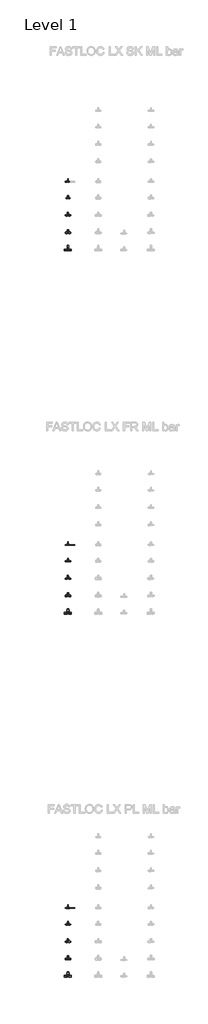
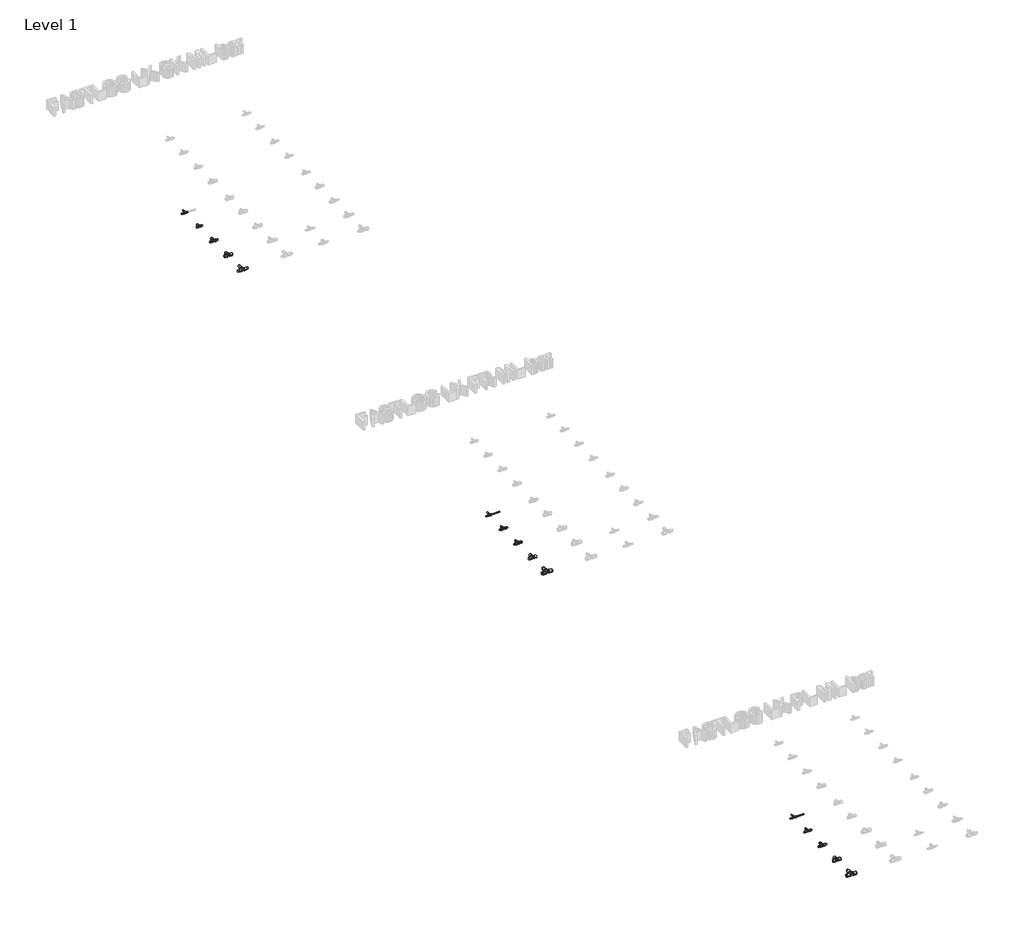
# One storey, part 1 of 78: 41 pipe segments, 15 pipe fittings.
"""IFC4 building model written with IfcOpenShell, lengths in millimetres."""

from ifc_helpers import new_model, si_unit, point, frame, frame_2d, origin, place, context, project, spatial, circle_curve, trimmed, segment, composite_curve, outline, extrude, transform, mapped, element, save
from components import pipe_fitting_d1609a9c, pipe_fitting_bded02bd, pipe_fitting_da5243fc, pipe_fitting_29102c59, pipe_fitting_564e9d2e

model = new_model("IFC4")

# Units and contexts
model_context = context("Model", 3, world=origin())
ifc_project = project(units=[si_unit("LENGTHUNIT", "METRE", prefix="MILLI")], contexts=[model_context])

# Site, building, storey
site = spatial("IfcSite", under=ifc_project)
building = spatial("IfcBuilding", under=site)
storey = spatial("IfcBuildingStorey", under=building, Name="Level 1", Elevation=0.0)

# Pipe fittings
placement = place(None, origin())
pipe_fitting_shape = pipe_fitting_d1609a9c(model_context)
element("IfcPipeFitting", 1, ObjectType="FASTLOC_T-piece_LX : FSL T-Piece LX FR", at=placement, inside=storey, context=model_context, shape_type="MappedRepresentation", body=[
    mapped(pipe_fitting_shape, transform((-273.2501928, -28780.2405791, 0.0), x_axis=(1.0, 0.0, 0.0), y_axis=(0.0, 1.0, 0.0), z_axis=(0.0, 0.0, 1.0))),
])
element("IfcPipeFitting", 2, ObjectType="FASTLOC_T-piece_LX : FSL T-Piece LX PL", at=placement, inside=storey, context=model_context, shape_type="MappedRepresentation", body=[
    mapped(pipe_fitting_shape, transform((-273.2501928, -37180.2405791, 0.0), x_axis=(1.0, 0.0, 0.0), y_axis=(0.0, 1.0, 0.0), z_axis=(0.0, 0.0, 1.0))),
])
element("IfcPipeFitting", 3, ObjectType="FASTLOC_T-piece_LX : FSL T-Piece LX SK", at=placement, inside=storey, context=model_context, shape_type="MappedRepresentation", body=[
    mapped(pipe_fitting_shape, transform((-273.2501928, -20380.2405791, 0.0), x_axis=(1.0, 0.0, 0.0), y_axis=(0.0, 1.0, 0.0), z_axis=(0.0, 0.0, 1.0))),
])
pipe_fitting_2_shape = pipe_fitting_bded02bd(model_context)
element("IfcPipeFitting", 4, ObjectType="FASTLOC_T-piece_LX : FSL T-Piece LX SK", at=placement, inside=storey, context=model_context, shape_type="MappedRepresentation", body=[
    mapped(pipe_fitting_2_shape, transform((-273.2501928, -20760.2405791, 0.0), x_axis=(1.0, 0.0, 0.0), y_axis=(0.0, 1.0, 0.0), z_axis=(0.0, 0.0, 1.0))),
])
pipe_fitting_3_shape = pipe_fitting_da5243fc(model_context)
element("IfcPipeFitting", 5, ObjectType="FASTLOC_T-piece_LX : FSL T-Piece LX SK", at=placement, inside=storey, context=model_context, shape_type="MappedRepresentation", body=[
    mapped(pipe_fitting_3_shape, transform((-273.2501928, -21160.2405791, 0.0), x_axis=(1.0, 0.0, 0.0), y_axis=(0.0, 1.0, 0.0), z_axis=(0.0, 0.0, 1.0))),
])
pipe_fitting_4_shape = pipe_fitting_29102c59(model_context)
element("IfcPipeFitting", 6, ObjectType="FASTLOC_T-piece_LX : FSL T-Piece LX SK", at=placement, inside=storey, context=model_context, shape_type="MappedRepresentation", body=[
    mapped(pipe_fitting_4_shape, transform((-273.2501928, -21560.2405791, 0.0), x_axis=(1.0, 0.0, 0.0), y_axis=(0.0, 1.0, 0.0), z_axis=(0.0, 0.0, 1.0))),
])
element("IfcPipeFitting", 7, ObjectType="FASTLOC_T-piece_LX : FSL T-Piece LX SK", at=placement, inside=storey, context=model_context, shape_type="MappedRepresentation", body=[
    mapped(pipe_fitting_4_shape, transform((-273.2501928, -21960.2405791, 0.0), x_axis=(1.0, 0.0, 0.0), y_axis=(0.0, 1.0, 0.0), z_axis=(0.0, 0.0, 1.0))),
])
element("IfcPipeFitting", 8, ObjectType="FASTLOC_T-piece_LX : FSL T-Piece LX FR", at=placement, inside=storey, context=model_context, shape_type="MappedRepresentation", body=[
    mapped(pipe_fitting_2_shape, transform((-273.2501928, -29160.2405791, 0.0), x_axis=(1.0, 0.0, 0.0), y_axis=(0.0, 1.0, 0.0), z_axis=(0.0, 0.0, 1.0))),
])
element("IfcPipeFitting", 9, ObjectType="FASTLOC_T-piece_LX : FSL T-Piece LX FR", at=placement, inside=storey, context=model_context, shape_type="MappedRepresentation", body=[
    mapped(pipe_fitting_3_shape, transform((-273.2501928, -29560.2405791, 0.0), x_axis=(1.0, 0.0, 0.0), y_axis=(0.0, 1.0, 0.0), z_axis=(0.0, 0.0, 1.0))),
])
element("IfcPipeFitting", 10, ObjectType="FASTLOC_T-piece_LX : FSL T-Piece LX FR", at=placement, inside=storey, context=model_context, shape_type="MappedRepresentation", body=[
    mapped(pipe_fitting_4_shape, transform((-273.2501928, -29960.2405791, 0.0), x_axis=(1.0, 0.0, 0.0), y_axis=(0.0, 1.0, 0.0), z_axis=(0.0, 0.0, 1.0))),
])
pipe_fitting_5_shape = pipe_fitting_564e9d2e(model_context)
element("IfcPipeFitting", 11, ObjectType="FASTLOC_T-piece_LX : FSL T-Piece LX FR", at=placement, inside=storey, context=model_context, shape_type="MappedRepresentation", body=[
    mapped(pipe_fitting_5_shape, transform((-273.2501928, -30360.2405791, 0.0), x_axis=(1.0, 0.0, 0.0), y_axis=(0.0, 1.0, 0.0), z_axis=(0.0, 0.0, 1.0))),
])
element("IfcPipeFitting", 12, ObjectType="FASTLOC_T-piece_LX : FSL T-Piece LX PL", at=placement, inside=storey, context=model_context, shape_type="MappedRepresentation", body=[
    mapped(pipe_fitting_2_shape, transform((-273.2501928, -37560.2405791, 0.0), x_axis=(1.0, 0.0, 0.0), y_axis=(0.0, 1.0, 0.0), z_axis=(0.0, 0.0, 1.0))),
])
element("IfcPipeFitting", 13, ObjectType="FASTLOC_T-piece_LX : FSL T-Piece LX PL", at=placement, inside=storey, context=model_context, shape_type="MappedRepresentation", body=[
    mapped(pipe_fitting_3_shape, transform((-273.2501928, -37960.2405791, 0.0), x_axis=(1.0, 0.0, 0.0), y_axis=(0.0, 1.0, 0.0), z_axis=(0.0, 0.0, 1.0))),
])
element("IfcPipeFitting", 14, ObjectType="FASTLOC_T-piece_LX : FSL T-Piece LX PL", at=placement, inside=storey, context=model_context, shape_type="MappedRepresentation", body=[
    mapped(pipe_fitting_4_shape, transform((-273.2501928, -38360.2405791, 0.0), x_axis=(1.0, 0.0, 0.0), y_axis=(0.0, 1.0, 0.0), z_axis=(0.0, 0.0, 1.0))),
])
element("IfcPipeFitting", 15, ObjectType="FASTLOC_T-piece_LX : FSL T-Piece LX PL", at=placement, inside=storey, context=model_context, shape_type="MappedRepresentation", body=[
    mapped(pipe_fitting_5_shape, transform((-273.2501928, -38760.2405791, 0.0), x_axis=(1.0, 0.0, 0.0), y_axis=(0.0, 1.0, 0.0), z_axis=(0.0, 0.0, 1.0))),
])

# Pipe segments
element("IfcPipeSegment", 16, ObjectType="FASTLOC LX ML SK bar", at=placement, inside=storey, context=model_context, shape_type="SweptSolid", body=[
    extrude(outline(composite_curve([segment(trimmed(circle_curve(frame_2d((-20380.2405791, 0.0)), 8.0), [point((-20372.2405791, 0.0))], [point((-20380.2405791, -8.0))], False, "CARTESIAN"), True, "CONTINUOUS"), segment(trimmed(circle_curve(frame_2d((-20380.2405791, 0.0)), 8.0), [point((-20380.2405791, -8.0))], [point((-20388.2405791, 0.0))], False, "CARTESIAN"), True, "CONTINUOUS"), segment(trimmed(circle_curve(frame_2d((-20380.2405791, 0.0)), 8.0), [point((-20388.2405791, 0.0))], [point((-20380.2405791, 8.0))], False, "CARTESIAN"), True, "CONTINUOUS"), segment(trimmed(circle_curve(frame_2d((-20380.2405791, 0.0)), 8.0), [point((-20380.2405791, 8.0))], [point((-20372.2405791, 0.0))], False, "CARTESIAN"), True, "CONTINUOUS")], self_intersect=False)), frame((-335.2501928, 0.0, 0.0), z_axis=(1.0, 0.0, 0.0), x_axis=(0.0, 1.0, 0.0)), (0.0, 0.0, 1.0), 47.0),
])
element("IfcPipeSegment", 17, ObjectType="FASTLOC LX ML SK bar", at=placement, inside=storey, context=model_context, shape_type="SweptSolid", body=[
    extrude(outline(composite_curve([segment(trimmed(circle_curve(frame_2d((0.0, -273.2501928)), 8.0), [point((0.0, -265.2501928))], [point((8.0, -273.2501928))], False, "CARTESIAN"), True, "CONTINUOUS"), segment(trimmed(circle_curve(frame_2d((0.0, -273.2501928)), 8.0), [point((8.0, -273.2501928))], [point((0.0, -281.2501928))], False, "CARTESIAN"), True, "CONTINUOUS"), segment(trimmed(circle_curve(frame_2d((0.0, -273.2501928)), 8.0), [point((0.0, -281.2501928))], [point((-8.0, -273.2501928))], False, "CARTESIAN"), True, "CONTINUOUS"), segment(trimmed(circle_curve(frame_2d((0.0, -273.2501928)), 8.0), [point((-8.0, -273.2501928))], [point((0.0, -265.2501928))], False, "CARTESIAN"), True, "CONTINUOUS")], self_intersect=False)), frame((0.0, -20358.1405791, 0.0), z_axis=(0.0, 1.0, 0.0), x_axis=(0.0, 0.0, 1.0)), (0.0, 0.0, 1.0), 50.2),
])
element("IfcPipeSegment", 18, ObjectType="FASTLOC LX ML SK bar", at=placement, inside=storey, context=model_context, shape_type="SweptSolid", body=[
    extrude(outline(composite_curve([segment(trimmed(circle_curve(frame_2d((-21160.2405791, 0.0)), 12.5), [point((-21172.7405791, 0.0))], [point((-21160.2405791, 12.5))], False, "CARTESIAN"), True, "CONTINUOUS"), segment(trimmed(circle_curve(frame_2d((-21160.2405791, 0.0)), 12.5), [point((-21160.2405791, 12.5))], [point((-21147.7405791, 0.0))], False, "CARTESIAN"), True, "CONTINUOUS"), segment(trimmed(circle_curve(frame_2d((-21160.2405791, 0.0)), 12.5), [point((-21147.7405791, 0.0))], [point((-21160.2405791, -12.5))], False, "CARTESIAN"), True, "CONTINUOUS"), segment(trimmed(circle_curve(frame_2d((-21160.2405791, 0.0)), 12.5), [point((-21160.2405791, -12.5))], [point((-21172.7405791, 0.0))], False, "CARTESIAN"), True, "CONTINUOUS")], self_intersect=False)), frame((-253.3501928, 0.0, 0.0), z_axis=(1.0, 0.0, 0.0), x_axis=(0.0, 1.0, 0.0)), (0.0, 0.0, 1.0), 42.1),
])
element("IfcPipeSegment", 19, ObjectType="FASTLOC LX ML SK bar", at=placement, inside=storey, context=model_context, shape_type="SweptSolid", body=[
    extrude(outline(composite_curve([segment(trimmed(circle_curve(frame_2d((-21160.2405791, 0.0)), 12.5), [point((-21147.7405791, 0.0))], [point((-21160.2405791, -12.5))], False, "CARTESIAN"), True, "CONTINUOUS"), segment(trimmed(circle_curve(frame_2d((-21160.2405791, 0.0)), 12.5), [point((-21160.2405791, -12.5))], [point((-21172.7405791, 0.0))], False, "CARTESIAN"), True, "CONTINUOUS"), segment(trimmed(circle_curve(frame_2d((-21160.2405791, 0.0)), 12.5), [point((-21172.7405791, 0.0))], [point((-21160.2405791, 12.5))], False, "CARTESIAN"), True, "CONTINUOUS"), segment(trimmed(circle_curve(frame_2d((-21160.2405791, 0.0)), 12.5), [point((-21160.2405791, 12.5))], [point((-21147.7405791, 0.0))], False, "CARTESIAN"), True, "CONTINUOUS")], self_intersect=False)), frame((-335.2501928, 0.0, 0.0), z_axis=(1.0, 0.0, 0.0), x_axis=(0.0, 1.0, 0.0)), (0.0, 0.0, 1.0), 42.1),
])
element("IfcPipeSegment", 20, ObjectType="FASTLOC LX ML SK bar", at=placement, inside=storey, context=model_context, shape_type="SweptSolid", body=[
    extrude(outline(composite_curve([segment(trimmed(circle_curve(frame_2d((0.0, -273.2501928)), 12.5), [point((0.0, -260.7501928))], [point((12.5, -273.2501928))], False, "CARTESIAN"), True, "CONTINUOUS"), segment(trimmed(circle_curve(frame_2d((0.0, -273.2501928)), 12.5), [point((12.5, -273.2501928))], [point((0.0, -285.7501928))], False, "CARTESIAN"), True, "CONTINUOUS"), segment(trimmed(circle_curve(frame_2d((0.0, -273.2501928)), 12.5), [point((0.0, -285.7501928))], [point((-12.5, -273.2501928))], False, "CARTESIAN"), True, "CONTINUOUS"), segment(trimmed(circle_curve(frame_2d((0.0, -273.2501928)), 12.5), [point((-12.5, -273.2501928))], [point((0.0, -260.7501928))], False, "CARTESIAN"), True, "CONTINUOUS")], self_intersect=False)), frame((0.0, -21130.7405791, 0.0), z_axis=(0.0, 1.0, 0.0), x_axis=(0.0, 0.0, 1.0)), (0.0, 0.0, 1.0), 42.8),
])
element("IfcPipeSegment", 21, ObjectType="FASTLOC LX ML SK bar", at=placement, inside=storey, context=model_context, shape_type="SweptSolid", body=[
    extrude(outline(composite_curve([segment(trimmed(circle_curve(frame_2d((-21560.2405791, 0.0)), 16.0), [point((-21576.2405791, 0.0))], [point((-21560.2405791, 16.0))], False, "CARTESIAN"), True, "CONTINUOUS"), segment(trimmed(circle_curve(frame_2d((-21560.2405791, 0.0)), 16.0), [point((-21560.2405791, 16.0))], [point((-21544.2405791, 0.0))], False, "CARTESIAN"), True, "CONTINUOUS"), segment(trimmed(circle_curve(frame_2d((-21560.2405791, 0.0)), 16.0), [point((-21544.2405791, 0.0))], [point((-21560.2405791, -16.0))], False, "CARTESIAN"), True, "CONTINUOUS"), segment(trimmed(circle_curve(frame_2d((-21560.2405791, 0.0)), 16.0), [point((-21560.2405791, -16.0))], [point((-21576.2405791, 0.0))], False, "CARTESIAN"), True, "CONTINUOUS")], self_intersect=False)), frame((-248.4501928, 0.0, 0.0), z_axis=(1.0, 0.0, 0.0), x_axis=(0.0, 1.0, 0.0)), (0.0, 0.0, 1.0), 37.2),
])
element("IfcPipeSegment", 22, ObjectType="FASTLOC LX ML SK bar", at=placement, inside=storey, context=model_context, shape_type="SweptSolid", body=[
    extrude(outline(composite_curve([segment(trimmed(circle_curve(frame_2d((-21560.2405791, 0.0)), 16.0), [point((-21544.2405791, 0.0))], [point((-21560.2405791, -16.0))], False, "CARTESIAN"), True, "CONTINUOUS"), segment(trimmed(circle_curve(frame_2d((-21560.2405791, 0.0)), 16.0), [point((-21560.2405791, -16.0))], [point((-21576.2405791, 0.0))], False, "CARTESIAN"), True, "CONTINUOUS"), segment(trimmed(circle_curve(frame_2d((-21560.2405791, 0.0)), 16.0), [point((-21576.2405791, 0.0))], [point((-21560.2405791, 16.0))], False, "CARTESIAN"), True, "CONTINUOUS"), segment(trimmed(circle_curve(frame_2d((-21560.2405791, 0.0)), 16.0), [point((-21560.2405791, 16.0))], [point((-21544.2405791, 0.0))], False, "CARTESIAN"), True, "CONTINUOUS")], self_intersect=False)), frame((-335.2501928, 0.0, 0.0), z_axis=(1.0, 0.0, 0.0), x_axis=(0.0, 1.0, 0.0)), (0.0, 0.0, 1.0), 37.2),
])
element("IfcPipeSegment", 23, ObjectType="FASTLOC LX ML SK bar", at=placement, inside=storey, context=model_context, shape_type="SweptSolid", body=[
    extrude(outline(composite_curve([segment(trimmed(circle_curve(frame_2d((0.0, -273.2501928)), 16.0), [point((0.0, -257.2501928))], [point((16.0, -273.2501928))], False, "CARTESIAN"), True, "CONTINUOUS"), segment(trimmed(circle_curve(frame_2d((0.0, -273.2501928)), 16.0), [point((16.0, -273.2501928))], [point((0.0, -289.2501928))], False, "CARTESIAN"), True, "CONTINUOUS"), segment(trimmed(circle_curve(frame_2d((0.0, -273.2501928)), 16.0), [point((0.0, -289.2501928))], [point((-16.0, -273.2501928))], False, "CARTESIAN"), True, "CONTINUOUS"), segment(trimmed(circle_curve(frame_2d((0.0, -273.2501928)), 16.0), [point((-16.0, -273.2501928))], [point((0.0, -257.2501928))], False, "CARTESIAN"), True, "CONTINUOUS")], self_intersect=False)), frame((0.0, -21524.1405791, 0.0), z_axis=(0.0, 1.0, 0.0), x_axis=(0.0, 0.0, 1.0)), (0.0, 0.0, 1.0), 36.2),
])
element("IfcPipeSegment", 24, ObjectType="FASTLOC LX ML SK bar", at=placement, inside=storey, context=model_context, shape_type="SweptSolid", body=[
    extrude(outline(composite_curve([segment(trimmed(circle_curve(frame_2d((-21960.2405791, 0.0)), 16.0), [point((-21976.2405791, 0.0))], [point((-21960.2405791, 16.0))], False, "CARTESIAN"), True, "CONTINUOUS"), segment(trimmed(circle_curve(frame_2d((-21960.2405791, 0.0)), 16.0), [point((-21960.2405791, 16.0))], [point((-21944.2405791, 0.0))], False, "CARTESIAN"), True, "CONTINUOUS"), segment(trimmed(circle_curve(frame_2d((-21960.2405791, 0.0)), 16.0), [point((-21944.2405791, 0.0))], [point((-21960.2405791, -16.0))], False, "CARTESIAN"), True, "CONTINUOUS"), segment(trimmed(circle_curve(frame_2d((-21960.2405791, 0.0)), 16.0), [point((-21960.2405791, -16.0))], [point((-21976.2405791, 0.0))], False, "CARTESIAN"), True, "CONTINUOUS")], self_intersect=False)), frame((-248.4501928, 0.0, 0.0), z_axis=(1.0, 0.0, 0.0), x_axis=(0.0, 1.0, 0.0)), (0.0, 0.0, 1.0), 56.6),
])
element("IfcPipeSegment", 25, ObjectType="FASTLOC LX ML SK bar", at=placement, inside=storey, context=model_context, shape_type="SweptSolid", body=[
    extrude(outline(composite_curve([segment(trimmed(circle_curve(frame_2d((-21960.2405791, 0.0)), 16.0), [point((-21944.2405791, 0.0))], [point((-21960.2405791, -16.0))], False, "CARTESIAN"), True, "CONTINUOUS"), segment(trimmed(circle_curve(frame_2d((-21960.2405791, 0.0)), 16.0), [point((-21960.2405791, -16.0))], [point((-21976.2405791, 0.0))], False, "CARTESIAN"), True, "CONTINUOUS"), segment(trimmed(circle_curve(frame_2d((-21960.2405791, 0.0)), 16.0), [point((-21976.2405791, 0.0))], [point((-21960.2405791, 16.0))], False, "CARTESIAN"), True, "CONTINUOUS"), segment(trimmed(circle_curve(frame_2d((-21960.2405791, 0.0)), 16.0), [point((-21960.2405791, 16.0))], [point((-21944.2405791, 0.0))], False, "CARTESIAN"), True, "CONTINUOUS")], self_intersect=False)), frame((-354.6501928, 0.0, 0.0), z_axis=(1.0, 0.0, 0.0), x_axis=(0.0, 1.0, 0.0)), (0.0, 0.0, 1.0), 56.6),
])
element("IfcPipeSegment", 26, ObjectType="FASTLOC LX ML SK bar", at=placement, inside=storey, context=model_context, shape_type="SweptSolid", body=[
    extrude(outline(composite_curve([segment(trimmed(circle_curve(frame_2d((0.0, -273.2501928)), 16.0), [point((0.0, -257.2501928))], [point((16.0, -273.2501928))], False, "CARTESIAN"), True, "CONTINUOUS"), segment(trimmed(circle_curve(frame_2d((0.0, -273.2501928)), 16.0), [point((16.0, -273.2501928))], [point((0.0, -289.2501928))], False, "CARTESIAN"), True, "CONTINUOUS"), segment(trimmed(circle_curve(frame_2d((0.0, -273.2501928)), 16.0), [point((0.0, -289.2501928))], [point((-16.0, -273.2501928))], False, "CARTESIAN"), True, "CONTINUOUS"), segment(trimmed(circle_curve(frame_2d((0.0, -273.2501928)), 16.0), [point((-16.0, -273.2501928))], [point((0.0, -257.2501928))], False, "CARTESIAN"), True, "CONTINUOUS")], self_intersect=False)), frame((0.0, -21924.1405791, 0.0), z_axis=(0.0, 1.0, 0.0), x_axis=(0.0, 0.0, 1.0)), (0.0, 0.0, 1.0), 71.5),
])
element("IfcPipeSegment", 27, ObjectType="FASTLOC LX ML FR bar", at=placement, inside=storey, context=model_context, shape_type="SweptSolid", body=[
    extrude(outline(composite_curve([segment(trimmed(circle_curve(frame_2d((-28780.2405791, 0.0)), 8.0), [point((-28772.2405791, 0.0))], [point((-28780.2405791, -8.0))], False, "CARTESIAN"), True, "CONTINUOUS"), segment(trimmed(circle_curve(frame_2d((-28780.2405791, 0.0)), 8.0), [point((-28780.2405791, -8.0))], [point((-28788.2405791, 0.0))], False, "CARTESIAN"), True, "CONTINUOUS"), segment(trimmed(circle_curve(frame_2d((-28780.2405791, 0.0)), 8.0), [point((-28788.2405791, 0.0))], [point((-28780.2405791, 8.0))], False, "CARTESIAN"), True, "CONTINUOUS"), segment(trimmed(circle_curve(frame_2d((-28780.2405791, 0.0)), 8.0), [point((-28780.2405791, 8.0))], [point((-28772.2405791, 0.0))], False, "CARTESIAN"), True, "CONTINUOUS")], self_intersect=False)), frame((-335.2501928, 0.0, 0.0), z_axis=(1.0, 0.0, 0.0), x_axis=(0.0, 1.0, 0.0)), (0.0, 0.0, 1.0), 47.0),
])
element("IfcPipeSegment", 28, ObjectType="FASTLOC LX ML FR bar", at=placement, inside=storey, context=model_context, shape_type="SweptSolid", body=[
    extrude(outline(composite_curve([segment(trimmed(circle_curve(frame_2d((0.0, -273.2501928)), 8.0), [point((0.0, -265.2501928))], [point((8.0, -273.2501928))], False, "CARTESIAN"), True, "CONTINUOUS"), segment(trimmed(circle_curve(frame_2d((0.0, -273.2501928)), 8.0), [point((8.0, -273.2501928))], [point((0.0, -281.2501928))], False, "CARTESIAN"), True, "CONTINUOUS"), segment(trimmed(circle_curve(frame_2d((0.0, -273.2501928)), 8.0), [point((0.0, -281.2501928))], [point((-8.0, -273.2501928))], False, "CARTESIAN"), True, "CONTINUOUS"), segment(trimmed(circle_curve(frame_2d((0.0, -273.2501928)), 8.0), [point((-8.0, -273.2501928))], [point((0.0, -265.2501928))], False, "CARTESIAN"), True, "CONTINUOUS")], self_intersect=False)), frame((0.0, -28758.1405791, 0.0), z_axis=(0.0, 1.0, 0.0), x_axis=(0.0, 0.0, 1.0)), (0.0, 0.0, 1.0), 50.2),
])
element("IfcPipeSegment", 29, ObjectType="FASTLOC LX ML FR bar", at=placement, inside=storey, context=model_context, shape_type="SweptSolid", body=[
    extrude(outline(composite_curve([segment(trimmed(circle_curve(frame_2d((-29160.2405791, 0.0)), 8.0), [point((-29168.2405791, 0.0))], [point((-29160.2405791, 8.0))], False, "CARTESIAN"), True, "CONTINUOUS"), segment(trimmed(circle_curve(frame_2d((-29160.2405791, 0.0)), 8.0), [point((-29160.2405791, 8.0))], [point((-29152.2405791, 0.0))], False, "CARTESIAN"), True, "CONTINUOUS"), segment(trimmed(circle_curve(frame_2d((-29160.2405791, 0.0)), 8.0), [point((-29152.2405791, 0.0))], [point((-29160.2405791, -8.0))], False, "CARTESIAN"), True, "CONTINUOUS"), segment(trimmed(circle_curve(frame_2d((-29160.2405791, 0.0)), 8.0), [point((-29160.2405791, -8.0))], [point((-29168.2405791, 0.0))], False, "CARTESIAN"), True, "CONTINUOUS")], self_intersect=False)), frame((-256.0501928, 0.0, 0.0), z_axis=(1.0, 0.0, 0.0), x_axis=(0.0, 1.0, 0.0)), (0.0, 0.0, 1.0), 44.8),
])
element("IfcPipeSegment", 30, ObjectType="FASTLOC LX ML FR bar", at=placement, inside=storey, context=model_context, shape_type="SweptSolid", body=[
    extrude(outline(composite_curve([segment(trimmed(circle_curve(frame_2d((-29160.2405791, 0.0)), 8.0), [point((-29152.2405791, 0.0))], [point((-29160.2405791, -8.0))], False, "CARTESIAN"), True, "CONTINUOUS"), segment(trimmed(circle_curve(frame_2d((-29160.2405791, 0.0)), 8.0), [point((-29160.2405791, -8.0))], [point((-29168.2405791, 0.0))], False, "CARTESIAN"), True, "CONTINUOUS"), segment(trimmed(circle_curve(frame_2d((-29160.2405791, 0.0)), 8.0), [point((-29168.2405791, 0.0))], [point((-29160.2405791, 8.0))], False, "CARTESIAN"), True, "CONTINUOUS"), segment(trimmed(circle_curve(frame_2d((-29160.2405791, 0.0)), 8.0), [point((-29160.2405791, 8.0))], [point((-29152.2405791, 0.0))], False, "CARTESIAN"), True, "CONTINUOUS")], self_intersect=False)), frame((-335.2501928, 0.0, 0.0), z_axis=(1.0, 0.0, 0.0), x_axis=(0.0, 1.0, 0.0)), (0.0, 0.0, 1.0), 44.8),
])
element("IfcPipeSegment", 31, ObjectType="FASTLOC LX ML FR bar", at=placement, inside=storey, context=model_context, shape_type="SweptSolid", body=[
    extrude(outline(composite_curve([segment(trimmed(circle_curve(frame_2d((0.0, -273.2501928)), 8.0), [point((0.0, -265.2501928))], [point((8.0, -273.2501928))], False, "CARTESIAN"), True, "CONTINUOUS"), segment(trimmed(circle_curve(frame_2d((0.0, -273.2501928)), 8.0), [point((8.0, -273.2501928))], [point((0.0, -281.2501928))], False, "CARTESIAN"), True, "CONTINUOUS"), segment(trimmed(circle_curve(frame_2d((0.0, -273.2501928)), 8.0), [point((0.0, -281.2501928))], [point((-8.0, -273.2501928))], False, "CARTESIAN"), True, "CONTINUOUS"), segment(trimmed(circle_curve(frame_2d((0.0, -273.2501928)), 8.0), [point((-8.0, -273.2501928))], [point((0.0, -265.2501928))], False, "CARTESIAN"), True, "CONTINUOUS")], self_intersect=False)), frame((0.0, -29133.8405791, 0.0), z_axis=(0.0, 1.0, 0.0), x_axis=(0.0, 0.0, 1.0)), (0.0, 0.0, 1.0), 45.9),
])
element("IfcPipeSegment", 32, ObjectType="FASTLOC LX ML FR bar", at=placement, inside=storey, context=model_context, shape_type="SweptSolid", body=[
    extrude(outline(composite_curve([segment(trimmed(circle_curve(frame_2d((-29560.2405791, 0.0)), 12.5), [point((-29572.7405791, 0.0))], [point((-29560.2405791, 12.5))], False, "CARTESIAN"), True, "CONTINUOUS"), segment(trimmed(circle_curve(frame_2d((-29560.2405791, 0.0)), 12.5), [point((-29560.2405791, 12.5))], [point((-29547.7405791, 0.0))], False, "CARTESIAN"), True, "CONTINUOUS"), segment(trimmed(circle_curve(frame_2d((-29560.2405791, 0.0)), 12.5), [point((-29547.7405791, 0.0))], [point((-29560.2405791, -12.5))], False, "CARTESIAN"), True, "CONTINUOUS"), segment(trimmed(circle_curve(frame_2d((-29560.2405791, 0.0)), 12.5), [point((-29560.2405791, -12.5))], [point((-29572.7405791, 0.0))], False, "CARTESIAN"), True, "CONTINUOUS")], self_intersect=False)), frame((-253.3501928, 0.0, 0.0), z_axis=(1.0, 0.0, 0.0), x_axis=(0.0, 1.0, 0.0)), (0.0, 0.0, 1.0), 42.1),
])
element("IfcPipeSegment", 33, ObjectType="FASTLOC LX ML FR bar", at=placement, inside=storey, context=model_context, shape_type="SweptSolid", body=[
    extrude(outline(composite_curve([segment(trimmed(circle_curve(frame_2d((-29560.2405791, 0.0)), 12.5), [point((-29547.7405791, 0.0))], [point((-29560.2405791, -12.5))], False, "CARTESIAN"), True, "CONTINUOUS"), segment(trimmed(circle_curve(frame_2d((-29560.2405791, 0.0)), 12.5), [point((-29560.2405791, -12.5))], [point((-29572.7405791, 0.0))], False, "CARTESIAN"), True, "CONTINUOUS"), segment(trimmed(circle_curve(frame_2d((-29560.2405791, 0.0)), 12.5), [point((-29572.7405791, 0.0))], [point((-29560.2405791, 12.5))], False, "CARTESIAN"), True, "CONTINUOUS"), segment(trimmed(circle_curve(frame_2d((-29560.2405791, 0.0)), 12.5), [point((-29560.2405791, 12.5))], [point((-29547.7405791, 0.0))], False, "CARTESIAN"), True, "CONTINUOUS")], self_intersect=False)), frame((-335.2501928, 0.0, 0.0), z_axis=(1.0, 0.0, 0.0), x_axis=(0.0, 1.0, 0.0)), (0.0, 0.0, 1.0), 42.1),
])
element("IfcPipeSegment", 34, ObjectType="FASTLOC LX ML FR bar", at=placement, inside=storey, context=model_context, shape_type="SweptSolid", body=[
    extrude(outline(composite_curve([segment(trimmed(circle_curve(frame_2d((0.0, -273.2501928)), 12.5), [point((0.0, -260.7501928))], [point((12.5, -273.2501928))], False, "CARTESIAN"), True, "CONTINUOUS"), segment(trimmed(circle_curve(frame_2d((0.0, -273.2501928)), 12.5), [point((12.5, -273.2501928))], [point((0.0, -285.7501928))], False, "CARTESIAN"), True, "CONTINUOUS"), segment(trimmed(circle_curve(frame_2d((0.0, -273.2501928)), 12.5), [point((0.0, -285.7501928))], [point((-12.5, -273.2501928))], False, "CARTESIAN"), True, "CONTINUOUS"), segment(trimmed(circle_curve(frame_2d((0.0, -273.2501928)), 12.5), [point((-12.5, -273.2501928))], [point((0.0, -260.7501928))], False, "CARTESIAN"), True, "CONTINUOUS")], self_intersect=False)), frame((0.0, -29530.7405791, 0.0), z_axis=(0.0, 1.0, 0.0), x_axis=(0.0, 0.0, 1.0)), (0.0, 0.0, 1.0), 42.8),
])
element("IfcPipeSegment", 35, ObjectType="FASTLOC LX ML FR bar", at=placement, inside=storey, context=model_context, shape_type="SweptSolid", body=[
    extrude(outline(composite_curve([segment(trimmed(circle_curve(frame_2d((-29960.2405791, 0.0)), 16.0), [point((-29976.2405791, 0.0))], [point((-29960.2405791, 16.0))], False, "CARTESIAN"), True, "CONTINUOUS"), segment(trimmed(circle_curve(frame_2d((-29960.2405791, 0.0)), 16.0), [point((-29960.2405791, 16.0))], [point((-29944.2405791, 0.0))], False, "CARTESIAN"), True, "CONTINUOUS"), segment(trimmed(circle_curve(frame_2d((-29960.2405791, 0.0)), 16.0), [point((-29944.2405791, 0.0))], [point((-29960.2405791, -16.0))], False, "CARTESIAN"), True, "CONTINUOUS"), segment(trimmed(circle_curve(frame_2d((-29960.2405791, 0.0)), 16.0), [point((-29960.2405791, -16.0))], [point((-29976.2405791, 0.0))], False, "CARTESIAN"), True, "CONTINUOUS")], self_intersect=False)), frame((-248.4501928, 0.0, 0.0), z_axis=(1.0, 0.0, 0.0), x_axis=(0.0, 1.0, 0.0)), (0.0, 0.0, 1.0), 37.2),
])
element("IfcPipeSegment", 36, ObjectType="FASTLOC LX ML FR bar", at=placement, inside=storey, context=model_context, shape_type="SweptSolid", body=[
    extrude(outline(composite_curve([segment(trimmed(circle_curve(frame_2d((-29960.2405791, 0.0)), 16.0), [point((-29944.2405791, 0.0))], [point((-29960.2405791, -16.0))], False, "CARTESIAN"), True, "CONTINUOUS"), segment(trimmed(circle_curve(frame_2d((-29960.2405791, 0.0)), 16.0), [point((-29960.2405791, -16.0))], [point((-29976.2405791, 0.0))], False, "CARTESIAN"), True, "CONTINUOUS"), segment(trimmed(circle_curve(frame_2d((-29960.2405791, 0.0)), 16.0), [point((-29976.2405791, 0.0))], [point((-29960.2405791, 16.0))], False, "CARTESIAN"), True, "CONTINUOUS"), segment(trimmed(circle_curve(frame_2d((-29960.2405791, 0.0)), 16.0), [point((-29960.2405791, 16.0))], [point((-29944.2405791, 0.0))], False, "CARTESIAN"), True, "CONTINUOUS")], self_intersect=False)), frame((-335.2501928, 0.0, 0.0), z_axis=(1.0, 0.0, 0.0), x_axis=(0.0, 1.0, 0.0)), (0.0, 0.0, 1.0), 37.2),
])
element("IfcPipeSegment", 37, ObjectType="FASTLOC LX ML FR bar", at=placement, inside=storey, context=model_context, shape_type="SweptSolid", body=[
    extrude(outline(composite_curve([segment(trimmed(circle_curve(frame_2d((0.0, -273.2501928)), 16.0), [point((0.0, -257.2501928))], [point((16.0, -273.2501928))], False, "CARTESIAN"), True, "CONTINUOUS"), segment(trimmed(circle_curve(frame_2d((0.0, -273.2501928)), 16.0), [point((16.0, -273.2501928))], [point((0.0, -289.2501928))], False, "CARTESIAN"), True, "CONTINUOUS"), segment(trimmed(circle_curve(frame_2d((0.0, -273.2501928)), 16.0), [point((0.0, -289.2501928))], [point((-16.0, -273.2501928))], False, "CARTESIAN"), True, "CONTINUOUS"), segment(trimmed(circle_curve(frame_2d((0.0, -273.2501928)), 16.0), [point((-16.0, -273.2501928))], [point((0.0, -257.2501928))], False, "CARTESIAN"), True, "CONTINUOUS")], self_intersect=False)), frame((0.0, -29924.1405791, 0.0), z_axis=(0.0, 1.0, 0.0), x_axis=(0.0, 0.0, 1.0)), (0.0, 0.0, 1.0), 36.2),
])
element("IfcPipeSegment", 38, ObjectType="FASTLOC LX ML FR bar", at=placement, inside=storey, context=model_context, shape_type="SweptSolid", body=[
    extrude(outline(composite_curve([segment(trimmed(circle_curve(frame_2d((-30360.2405791, 0.0)), 20.0), [point((-30380.2405791, 0.0))], [point((-30360.2405791, 20.0))], False, "CARTESIAN"), True, "CONTINUOUS"), segment(trimmed(circle_curve(frame_2d((-30360.2405791, 0.0)), 20.0), [point((-30360.2405791, 20.0))], [point((-30340.2405791, 0.0))], False, "CARTESIAN"), True, "CONTINUOUS"), segment(trimmed(circle_curve(frame_2d((-30360.2405791, 0.0)), 20.0), [point((-30340.2405791, 0.0))], [point((-30360.2405791, -20.0))], False, "CARTESIAN"), True, "CONTINUOUS"), segment(trimmed(circle_curve(frame_2d((-30360.2405791, 0.0)), 20.0), [point((-30360.2405791, -20.0))], [point((-30380.2405791, 0.0))], False, "CARTESIAN"), True, "CONTINUOUS")], self_intersect=False)), frame((-241.8501928, 0.0, 0.0), z_axis=(1.0, 0.0, 0.0), x_axis=(0.0, 1.0, 0.0)), (0.0, 0.0, 1.0), 50.0),
])
element("IfcPipeSegment", 39, ObjectType="FASTLOC LX ML FR bar", at=placement, inside=storey, context=model_context, shape_type="SweptSolid", body=[
    extrude(outline(composite_curve([segment(trimmed(circle_curve(frame_2d((-30360.2405791, 0.0)), 20.0), [point((-30340.2405791, 0.0))], [point((-30360.2405791, -20.0))], False, "CARTESIAN"), True, "CONTINUOUS"), segment(trimmed(circle_curve(frame_2d((-30360.2405791, 0.0)), 20.0), [point((-30360.2405791, -20.0))], [point((-30380.2405791, 0.0))], False, "CARTESIAN"), True, "CONTINUOUS"), segment(trimmed(circle_curve(frame_2d((-30360.2405791, 0.0)), 20.0), [point((-30380.2405791, 0.0))], [point((-30360.2405791, 20.0))], False, "CARTESIAN"), True, "CONTINUOUS"), segment(trimmed(circle_curve(frame_2d((-30360.2405791, 0.0)), 20.0), [point((-30360.2405791, 20.0))], [point((-30340.2405791, 0.0))], False, "CARTESIAN"), True, "CONTINUOUS")], self_intersect=False)), frame((-354.6501928, 0.0, 0.0), z_axis=(1.0, 0.0, 0.0), x_axis=(0.0, 1.0, 0.0)), (0.0, 0.0, 1.0), 50.0),
])
element("IfcPipeSegment", 40, ObjectType="FASTLOC LX ML FR bar", at=placement, inside=storey, context=model_context, shape_type="SweptSolid", body=[
    extrude(outline(composite_curve([segment(trimmed(circle_curve(frame_2d((0.0, -273.2501928)), 20.0), [point((0.0, -253.2501928))], [point((20.0, -273.2501928))], False, "CARTESIAN"), True, "CONTINUOUS"), segment(trimmed(circle_curve(frame_2d((0.0, -273.2501928)), 20.0), [point((20.0, -273.2501928))], [point((0.0, -293.2501928))], False, "CARTESIAN"), True, "CONTINUOUS"), segment(trimmed(circle_curve(frame_2d((0.0, -273.2501928)), 20.0), [point((0.0, -293.2501928))], [point((-20.0, -273.2501928))], False, "CARTESIAN"), True, "CONTINUOUS"), segment(trimmed(circle_curve(frame_2d((0.0, -273.2501928)), 20.0), [point((-20.0, -273.2501928))], [point((0.0, -253.2501928))], False, "CARTESIAN"), True, "CONTINUOUS")], self_intersect=False)), frame((0.0, -30315.5405791, 0.0), z_axis=(0.0, 1.0, 0.0), x_axis=(0.0, 0.0, 1.0)), (0.0, 0.0, 1.0), 62.9),
])
element("IfcPipeSegment", 41, ObjectType="FASTLOC LX ML FR bar", at=placement, inside=storey, context=model_context, shape_type="SweptSolid", body=[
    extrude(outline(composite_curve([segment(trimmed(circle_curve(frame_2d((-28780.2405791, 0.0)), 8.0), [point((-28788.2405791, 0.0))], [point((-28780.2405791, 8.0))], False, "CARTESIAN"), True, "CONTINUOUS"), segment(trimmed(circle_curve(frame_2d((-28780.2405791, 0.0)), 8.0), [point((-28780.2405791, 8.0))], [point((-28772.2405791, 0.0))], False, "CARTESIAN"), True, "CONTINUOUS"), segment(trimmed(circle_curve(frame_2d((-28780.2405791, 0.0)), 8.0), [point((-28772.2405791, 0.0))], [point((-28780.2405791, -8.0))], False, "CARTESIAN"), True, "CONTINUOUS"), segment(trimmed(circle_curve(frame_2d((-28780.2405791, 0.0)), 8.0), [point((-28780.2405791, -8.0))], [point((-28788.2405791, 0.0))], False, "CARTESIAN"), True, "CONTINUOUS")], self_intersect=False)), frame((-258.2501928, 0.0, 0.0), z_axis=(1.0, 0.0, 0.0), x_axis=(0.0, 1.0, 0.0)), (0.0, 0.0, 1.0), 140.0),
])
element("IfcPipeSegment", 42, ObjectType="FASTLOC LX ML PL bar", at=placement, inside=storey, context=model_context, shape_type="SweptSolid", body=[
    extrude(outline(composite_curve([segment(trimmed(circle_curve(frame_2d((-37180.2405791, 0.0)), 8.0), [point((-37172.2405791, 0.0))], [point((-37180.2405791, -8.0))], False, "CARTESIAN"), True, "CONTINUOUS"), segment(trimmed(circle_curve(frame_2d((-37180.2405791, 0.0)), 8.0), [point((-37180.2405791, -8.0))], [point((-37188.2405791, 0.0))], False, "CARTESIAN"), True, "CONTINUOUS"), segment(trimmed(circle_curve(frame_2d((-37180.2405791, 0.0)), 8.0), [point((-37188.2405791, 0.0))], [point((-37180.2405791, 8.0))], False, "CARTESIAN"), True, "CONTINUOUS"), segment(trimmed(circle_curve(frame_2d((-37180.2405791, 0.0)), 8.0), [point((-37180.2405791, 8.0))], [point((-37172.2405791, 0.0))], False, "CARTESIAN"), True, "CONTINUOUS")], self_intersect=False)), frame((-335.2501928, 0.0, 0.0), z_axis=(1.0, 0.0, 0.0), x_axis=(0.0, 1.0, 0.0)), (0.0, 0.0, 1.0), 47.0),
])
element("IfcPipeSegment", 43, ObjectType="FASTLOC LX ML PL bar", at=placement, inside=storey, context=model_context, shape_type="SweptSolid", body=[
    extrude(outline(composite_curve([segment(trimmed(circle_curve(frame_2d((0.0, -273.2501928)), 8.0), [point((0.0, -265.2501928))], [point((8.0, -273.2501928))], False, "CARTESIAN"), True, "CONTINUOUS"), segment(trimmed(circle_curve(frame_2d((0.0, -273.2501928)), 8.0), [point((8.0, -273.2501928))], [point((0.0, -281.2501928))], False, "CARTESIAN"), True, "CONTINUOUS"), segment(trimmed(circle_curve(frame_2d((0.0, -273.2501928)), 8.0), [point((0.0, -281.2501928))], [point((-8.0, -273.2501928))], False, "CARTESIAN"), True, "CONTINUOUS"), segment(trimmed(circle_curve(frame_2d((0.0, -273.2501928)), 8.0), [point((-8.0, -273.2501928))], [point((0.0, -265.2501928))], False, "CARTESIAN"), True, "CONTINUOUS")], self_intersect=False)), frame((0.0, -37158.1405791, 0.0), z_axis=(0.0, 1.0, 0.0), x_axis=(0.0, 0.0, 1.0)), (0.0, 0.0, 1.0), 50.2),
])
element("IfcPipeSegment", 44, ObjectType="FASTLOC LX ML PL bar", at=placement, inside=storey, context=model_context, shape_type="SweptSolid", body=[
    extrude(outline(composite_curve([segment(trimmed(circle_curve(frame_2d((-37560.2405791, 0.0)), 8.0), [point((-37568.2405791, 0.0))], [point((-37560.2405791, 8.0))], False, "CARTESIAN"), True, "CONTINUOUS"), segment(trimmed(circle_curve(frame_2d((-37560.2405791, 0.0)), 8.0), [point((-37560.2405791, 8.0))], [point((-37552.2405791, 0.0))], False, "CARTESIAN"), True, "CONTINUOUS"), segment(trimmed(circle_curve(frame_2d((-37560.2405791, 0.0)), 8.0), [point((-37552.2405791, 0.0))], [point((-37560.2405791, -8.0))], False, "CARTESIAN"), True, "CONTINUOUS"), segment(trimmed(circle_curve(frame_2d((-37560.2405791, 0.0)), 8.0), [point((-37560.2405791, -8.0))], [point((-37568.2405791, 0.0))], False, "CARTESIAN"), True, "CONTINUOUS")], self_intersect=False)), frame((-256.0501928, 0.0, 0.0), z_axis=(1.0, 0.0, 0.0), x_axis=(0.0, 1.0, 0.0)), (0.0, 0.0, 1.0), 44.8),
])
element("IfcPipeSegment", 45, ObjectType="FASTLOC LX ML PL bar", at=placement, inside=storey, context=model_context, shape_type="SweptSolid", body=[
    extrude(outline(composite_curve([segment(trimmed(circle_curve(frame_2d((-37560.2405791, 0.0)), 8.0), [point((-37552.2405791, 0.0))], [point((-37560.2405791, -8.0))], False, "CARTESIAN"), True, "CONTINUOUS"), segment(trimmed(circle_curve(frame_2d((-37560.2405791, 0.0)), 8.0), [point((-37560.2405791, -8.0))], [point((-37568.2405791, 0.0))], False, "CARTESIAN"), True, "CONTINUOUS"), segment(trimmed(circle_curve(frame_2d((-37560.2405791, 0.0)), 8.0), [point((-37568.2405791, 0.0))], [point((-37560.2405791, 8.0))], False, "CARTESIAN"), True, "CONTINUOUS"), segment(trimmed(circle_curve(frame_2d((-37560.2405791, 0.0)), 8.0), [point((-37560.2405791, 8.0))], [point((-37552.2405791, 0.0))], False, "CARTESIAN"), True, "CONTINUOUS")], self_intersect=False)), frame((-335.2501928, 0.0, 0.0), z_axis=(1.0, 0.0, 0.0), x_axis=(0.0, 1.0, 0.0)), (0.0, 0.0, 1.0), 44.8),
])
element("IfcPipeSegment", 46, ObjectType="FASTLOC LX ML PL bar", at=placement, inside=storey, context=model_context, shape_type="SweptSolid", body=[
    extrude(outline(composite_curve([segment(trimmed(circle_curve(frame_2d((0.0, -273.2501928)), 8.0), [point((0.0, -265.2501928))], [point((8.0, -273.2501928))], False, "CARTESIAN"), True, "CONTINUOUS"), segment(trimmed(circle_curve(frame_2d((0.0, -273.2501928)), 8.0), [point((8.0, -273.2501928))], [point((0.0, -281.2501928))], False, "CARTESIAN"), True, "CONTINUOUS"), segment(trimmed(circle_curve(frame_2d((0.0, -273.2501928)), 8.0), [point((0.0, -281.2501928))], [point((-8.0, -273.2501928))], False, "CARTESIAN"), True, "CONTINUOUS"), segment(trimmed(circle_curve(frame_2d((0.0, -273.2501928)), 8.0), [point((-8.0, -273.2501928))], [point((0.0, -265.2501928))], False, "CARTESIAN"), True, "CONTINUOUS")], self_intersect=False)), frame((0.0, -37533.8405791, 0.0), z_axis=(0.0, 1.0, 0.0), x_axis=(0.0, 0.0, 1.0)), (0.0, 0.0, 1.0), 45.9),
])
element("IfcPipeSegment", 47, ObjectType="FASTLOC LX ML PL bar", at=placement, inside=storey, context=model_context, shape_type="SweptSolid", body=[
    extrude(outline(composite_curve([segment(trimmed(circle_curve(frame_2d((-37960.2405791, 0.0)), 12.5), [point((-37972.7405791, 0.0))], [point((-37960.2405791, 12.5))], False, "CARTESIAN"), True, "CONTINUOUS"), segment(trimmed(circle_curve(frame_2d((-37960.2405791, 0.0)), 12.5), [point((-37960.2405791, 12.5))], [point((-37947.7405791, 0.0))], False, "CARTESIAN"), True, "CONTINUOUS"), segment(trimmed(circle_curve(frame_2d((-37960.2405791, 0.0)), 12.5), [point((-37947.7405791, 0.0))], [point((-37960.2405791, -12.5))], False, "CARTESIAN"), True, "CONTINUOUS"), segment(trimmed(circle_curve(frame_2d((-37960.2405791, 0.0)), 12.5), [point((-37960.2405791, -12.5))], [point((-37972.7405791, 0.0))], False, "CARTESIAN"), True, "CONTINUOUS")], self_intersect=False)), frame((-253.3501928, 0.0, 0.0), z_axis=(1.0, 0.0, 0.0), x_axis=(0.0, 1.0, 0.0)), (0.0, 0.0, 1.0), 42.1),
])
element("IfcPipeSegment", 48, ObjectType="FASTLOC LX ML PL bar", at=placement, inside=storey, context=model_context, shape_type="SweptSolid", body=[
    extrude(outline(composite_curve([segment(trimmed(circle_curve(frame_2d((-37960.2405791, 0.0)), 12.5), [point((-37947.7405791, 0.0))], [point((-37960.2405791, -12.5))], False, "CARTESIAN"), True, "CONTINUOUS"), segment(trimmed(circle_curve(frame_2d((-37960.2405791, 0.0)), 12.5), [point((-37960.2405791, -12.5))], [point((-37972.7405791, 0.0))], False, "CARTESIAN"), True, "CONTINUOUS"), segment(trimmed(circle_curve(frame_2d((-37960.2405791, 0.0)), 12.5), [point((-37972.7405791, 0.0))], [point((-37960.2405791, 12.5))], False, "CARTESIAN"), True, "CONTINUOUS"), segment(trimmed(circle_curve(frame_2d((-37960.2405791, 0.0)), 12.5), [point((-37960.2405791, 12.5))], [point((-37947.7405791, 0.0))], False, "CARTESIAN"), True, "CONTINUOUS")], self_intersect=False)), frame((-335.2501928, 0.0, 0.0), z_axis=(1.0, 0.0, 0.0), x_axis=(0.0, 1.0, 0.0)), (0.0, 0.0, 1.0), 42.1),
])
element("IfcPipeSegment", 49, ObjectType="FASTLOC LX ML PL bar", at=placement, inside=storey, context=model_context, shape_type="SweptSolid", body=[
    extrude(outline(composite_curve([segment(trimmed(circle_curve(frame_2d((0.0, -273.2501928)), 12.5), [point((0.0, -260.7501928))], [point((12.5, -273.2501928))], False, "CARTESIAN"), True, "CONTINUOUS"), segment(trimmed(circle_curve(frame_2d((0.0, -273.2501928)), 12.5), [point((12.5, -273.2501928))], [point((0.0, -285.7501928))], False, "CARTESIAN"), True, "CONTINUOUS"), segment(trimmed(circle_curve(frame_2d((0.0, -273.2501928)), 12.5), [point((0.0, -285.7501928))], [point((-12.5, -273.2501928))], False, "CARTESIAN"), True, "CONTINUOUS"), segment(trimmed(circle_curve(frame_2d((0.0, -273.2501928)), 12.5), [point((-12.5, -273.2501928))], [point((0.0, -260.7501928))], False, "CARTESIAN"), True, "CONTINUOUS")], self_intersect=False)), frame((0.0, -37930.7405791, 0.0), z_axis=(0.0, 1.0, 0.0), x_axis=(0.0, 0.0, 1.0)), (0.0, 0.0, 1.0), 42.8),
])
element("IfcPipeSegment", 50, ObjectType="FASTLOC LX ML PL bar", at=placement, inside=storey, context=model_context, shape_type="SweptSolid", body=[
    extrude(outline(composite_curve([segment(trimmed(circle_curve(frame_2d((-38360.2405791, 0.0)), 16.0), [point((-38376.2405791, 0.0))], [point((-38360.2405791, 16.0))], False, "CARTESIAN"), True, "CONTINUOUS"), segment(trimmed(circle_curve(frame_2d((-38360.2405791, 0.0)), 16.0), [point((-38360.2405791, 16.0))], [point((-38344.2405791, 0.0))], False, "CARTESIAN"), True, "CONTINUOUS"), segment(trimmed(circle_curve(frame_2d((-38360.2405791, 0.0)), 16.0), [point((-38344.2405791, 0.0))], [point((-38360.2405791, -16.0))], False, "CARTESIAN"), True, "CONTINUOUS"), segment(trimmed(circle_curve(frame_2d((-38360.2405791, 0.0)), 16.0), [point((-38360.2405791, -16.0))], [point((-38376.2405791, 0.0))], False, "CARTESIAN"), True, "CONTINUOUS")], self_intersect=False)), frame((-248.4501928, 0.0, 0.0), z_axis=(1.0, 0.0, 0.0), x_axis=(0.0, 1.0, 0.0)), (0.0, 0.0, 1.0), 37.2),
])
element("IfcPipeSegment", 51, ObjectType="FASTLOC LX ML PL bar", at=placement, inside=storey, context=model_context, shape_type="SweptSolid", body=[
    extrude(outline(composite_curve([segment(trimmed(circle_curve(frame_2d((-38360.2405791, 0.0)), 16.0), [point((-38344.2405791, 0.0))], [point((-38360.2405791, -16.0))], False, "CARTESIAN"), True, "CONTINUOUS"), segment(trimmed(circle_curve(frame_2d((-38360.2405791, 0.0)), 16.0), [point((-38360.2405791, -16.0))], [point((-38376.2405791, 0.0))], False, "CARTESIAN"), True, "CONTINUOUS"), segment(trimmed(circle_curve(frame_2d((-38360.2405791, 0.0)), 16.0), [point((-38376.2405791, 0.0))], [point((-38360.2405791, 16.0))], False, "CARTESIAN"), True, "CONTINUOUS"), segment(trimmed(circle_curve(frame_2d((-38360.2405791, 0.0)), 16.0), [point((-38360.2405791, 16.0))], [point((-38344.2405791, 0.0))], False, "CARTESIAN"), True, "CONTINUOUS")], self_intersect=False)), frame((-335.2501928, 0.0, 0.0), z_axis=(1.0, 0.0, 0.0), x_axis=(0.0, 1.0, 0.0)), (0.0, 0.0, 1.0), 37.2),
])
element("IfcPipeSegment", 52, ObjectType="FASTLOC LX ML PL bar", at=placement, inside=storey, context=model_context, shape_type="SweptSolid", body=[
    extrude(outline(composite_curve([segment(trimmed(circle_curve(frame_2d((0.0, -273.2501928)), 16.0), [point((0.0, -257.2501928))], [point((16.0, -273.2501928))], False, "CARTESIAN"), True, "CONTINUOUS"), segment(trimmed(circle_curve(frame_2d((0.0, -273.2501928)), 16.0), [point((16.0, -273.2501928))], [point((0.0, -289.2501928))], False, "CARTESIAN"), True, "CONTINUOUS"), segment(trimmed(circle_curve(frame_2d((0.0, -273.2501928)), 16.0), [point((0.0, -289.2501928))], [point((-16.0, -273.2501928))], False, "CARTESIAN"), True, "CONTINUOUS"), segment(trimmed(circle_curve(frame_2d((0.0, -273.2501928)), 16.0), [point((-16.0, -273.2501928))], [point((0.0, -257.2501928))], False, "CARTESIAN"), True, "CONTINUOUS")], self_intersect=False)), frame((0.0, -38324.1405791, 0.0), z_axis=(0.0, 1.0, 0.0), x_axis=(0.0, 0.0, 1.0)), (0.0, 0.0, 1.0), 36.2),
])
element("IfcPipeSegment", 53, ObjectType="FASTLOC LX ML PL bar", at=placement, inside=storey, context=model_context, shape_type="SweptSolid", body=[
    extrude(outline(composite_curve([segment(trimmed(circle_curve(frame_2d((-38760.2405791, 0.0)), 20.0), [point((-38780.2405791, 0.0))], [point((-38760.2405791, 20.0))], False, "CARTESIAN"), True, "CONTINUOUS"), segment(trimmed(circle_curve(frame_2d((-38760.2405791, 0.0)), 20.0), [point((-38760.2405791, 20.0))], [point((-38740.2405791, 0.0))], False, "CARTESIAN"), True, "CONTINUOUS"), segment(trimmed(circle_curve(frame_2d((-38760.2405791, 0.0)), 20.0), [point((-38740.2405791, 0.0))], [point((-38760.2405791, -20.0))], False, "CARTESIAN"), True, "CONTINUOUS"), segment(trimmed(circle_curve(frame_2d((-38760.2405791, 0.0)), 20.0), [point((-38760.2405791, -20.0))], [point((-38780.2405791, 0.0))], False, "CARTESIAN"), True, "CONTINUOUS")], self_intersect=False)), frame((-241.8501928, 0.0, 0.0), z_axis=(1.0, 0.0, 0.0), x_axis=(0.0, 1.0, 0.0)), (0.0, 0.0, 1.0), 50.0),
])
element("IfcPipeSegment", 54, ObjectType="FASTLOC LX ML PL bar", at=placement, inside=storey, context=model_context, shape_type="SweptSolid", body=[
    extrude(outline(composite_curve([segment(trimmed(circle_curve(frame_2d((-38760.2405791, 0.0)), 20.0), [point((-38740.2405791, 0.0))], [point((-38760.2405791, -20.0))], False, "CARTESIAN"), True, "CONTINUOUS"), segment(trimmed(circle_curve(frame_2d((-38760.2405791, 0.0)), 20.0), [point((-38760.2405791, -20.0))], [point((-38780.2405791, 0.0))], False, "CARTESIAN"), True, "CONTINUOUS"), segment(trimmed(circle_curve(frame_2d((-38760.2405791, 0.0)), 20.0), [point((-38780.2405791, 0.0))], [point((-38760.2405791, 20.0))], False, "CARTESIAN"), True, "CONTINUOUS"), segment(trimmed(circle_curve(frame_2d((-38760.2405791, 0.0)), 20.0), [point((-38760.2405791, 20.0))], [point((-38740.2405791, 0.0))], False, "CARTESIAN"), True, "CONTINUOUS")], self_intersect=False)), frame((-354.6501928, 0.0, 0.0), z_axis=(1.0, 0.0, 0.0), x_axis=(0.0, 1.0, 0.0)), (0.0, 0.0, 1.0), 50.0),
])
element("IfcPipeSegment", 55, ObjectType="FASTLOC LX ML PL bar", at=placement, inside=storey, context=model_context, shape_type="SweptSolid", body=[
    extrude(outline(composite_curve([segment(trimmed(circle_curve(frame_2d((0.0, -273.2501928)), 20.0), [point((0.0, -253.2501928))], [point((20.0, -273.2501928))], False, "CARTESIAN"), True, "CONTINUOUS"), segment(trimmed(circle_curve(frame_2d((0.0, -273.2501928)), 20.0), [point((20.0, -273.2501928))], [point((0.0, -293.2501928))], False, "CARTESIAN"), True, "CONTINUOUS"), segment(trimmed(circle_curve(frame_2d((0.0, -273.2501928)), 20.0), [point((0.0, -293.2501928))], [point((-20.0, -273.2501928))], False, "CARTESIAN"), True, "CONTINUOUS"), segment(trimmed(circle_curve(frame_2d((0.0, -273.2501928)), 20.0), [point((-20.0, -273.2501928))], [point((0.0, -253.2501928))], False, "CARTESIAN"), True, "CONTINUOUS")], self_intersect=False)), frame((0.0, -38715.5405791, 0.0), z_axis=(0.0, 1.0, 0.0), x_axis=(0.0, 0.0, 1.0)), (0.0, 0.0, 1.0), 62.9),
])
element("IfcPipeSegment", 56, ObjectType="FASTLOC LX ML PL bar", at=placement, inside=storey, context=model_context, shape_type="SweptSolid", body=[
    extrude(outline(composite_curve([segment(trimmed(circle_curve(frame_2d((-37180.2405791, 0.0)), 8.0), [point((-37188.2405791, 0.0))], [point((-37180.2405791, 8.0))], False, "CARTESIAN"), True, "CONTINUOUS"), segment(trimmed(circle_curve(frame_2d((-37180.2405791, 0.0)), 8.0), [point((-37180.2405791, 8.0))], [point((-37172.2405791, 0.0))], False, "CARTESIAN"), True, "CONTINUOUS"), segment(trimmed(circle_curve(frame_2d((-37180.2405791, 0.0)), 8.0), [point((-37172.2405791, 0.0))], [point((-37180.2405791, -8.0))], False, "CARTESIAN"), True, "CONTINUOUS"), segment(trimmed(circle_curve(frame_2d((-37180.2405791, 0.0)), 8.0), [point((-37180.2405791, -8.0))], [point((-37188.2405791, 0.0))], False, "CARTESIAN"), True, "CONTINUOUS")], self_intersect=False)), frame((-258.2501928, 0.0, 0.0), z_axis=(1.0, 0.0, 0.0), x_axis=(0.0, 1.0, 0.0)), (0.0, 0.0, 1.0), 140.0),
])

save(model, "model.ifc")
